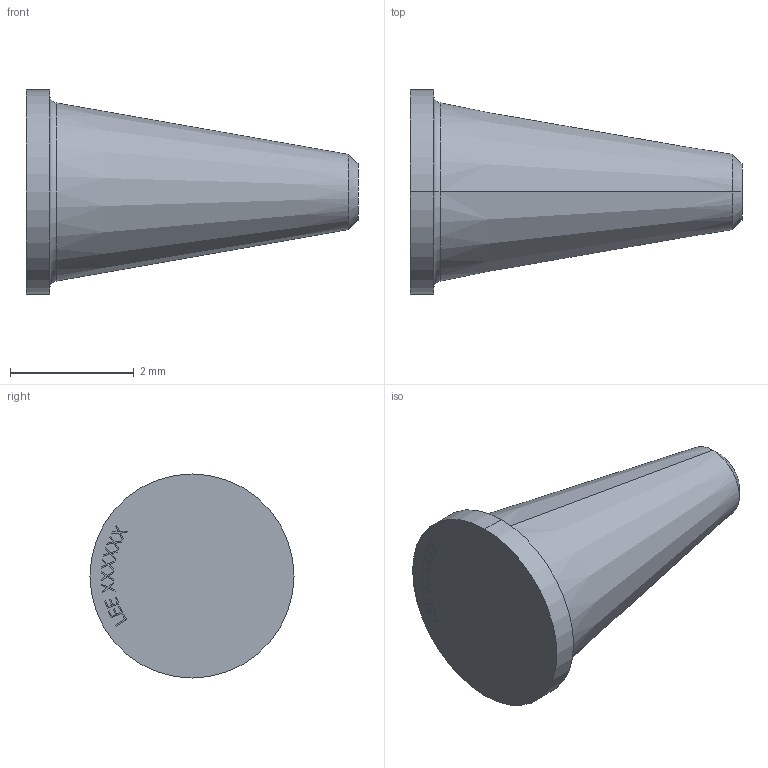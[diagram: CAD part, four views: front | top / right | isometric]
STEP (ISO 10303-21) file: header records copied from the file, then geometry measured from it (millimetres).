
FILE_DESCRIPTION (( 'STEP AP214' ), '1' );
FILE_NAME ('3DFSHF1305000A.STEP', '2024-05-24T14:40:34', ( '' ), ( '' ), 'SwSTEP 2.0', 'SolidWorks 2023', '' );
FILE_SCHEMA (( 'AUTOMOTIVE_DESIGN' ));
Length unit declared in the file: inch
Products named in the file (1): 3DFSHF1305000A
Bounding box: 5.37 x 3.3 x 3.3 mm (x, y, z)
Volume: 20.6 mm3; surface area: 47.4 mm2
Topology: 1 solids, 1 shells, 122 faces, 326 edges, 216 vertices
Faces by surface type: plane 114, cone 4, cylinder 2, torus 2
Entity records: 3759 total; most frequent: CARTESIAN_POINT 665, ORIENTED_EDGE 652, DIRECTION 586, EDGE_CURVE 326, LINE 312, VECTOR 312, VERTEX_POINT 216, AXIS2_PLACEMENT_3D 137
